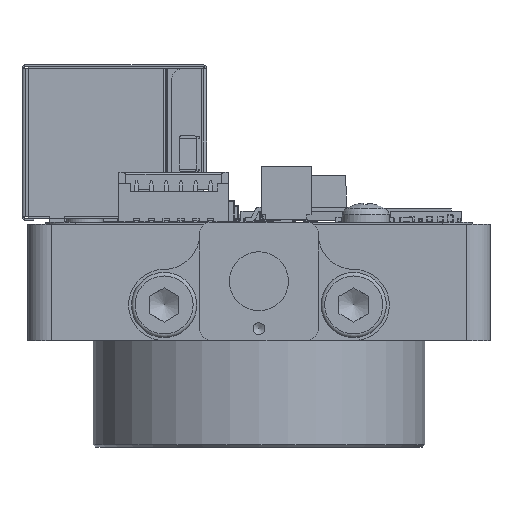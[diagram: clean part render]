
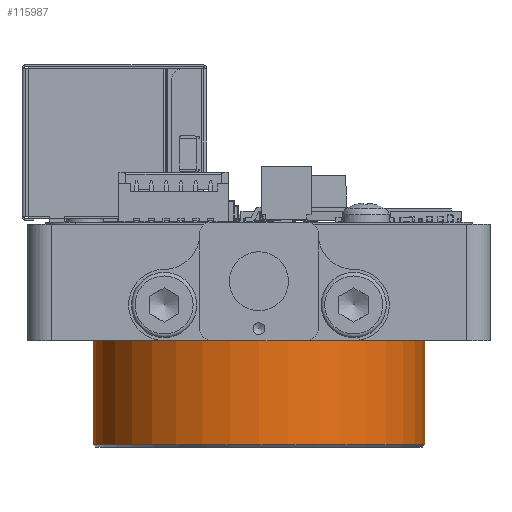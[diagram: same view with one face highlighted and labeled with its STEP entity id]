
A CAD part, front view. The second image highlights one B-rep face of the part: STEP entity #115987.
In plain terms, the highlighted cylindrical face has radius 14 mm (diameter 28 mm), a full revolution.
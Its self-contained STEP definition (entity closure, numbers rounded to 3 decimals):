
#1698=CYLINDRICAL_SURFACE('',#123748,14.);
#4794=CIRCLE('',#123741,14.);
#4798=CIRCLE('',#123749,14.);
#4799=CIRCLE('',#123750,14.);
#11717=FACE_OUTER_BOUND('',#18971,.T.);
#18971=EDGE_LOOP('',(#75971,#75972,#75973,#75974,#75975));
#27427=LINE('',#176672,#37739);
#37739=VECTOR('',#139586,14.);
#47647=VERTEX_POINT('',#176654);
#47651=VERTEX_POINT('',#176668);
#47652=VERTEX_POINT('',#176669);
#57672=EDGE_CURVE('',#47647,#47647,#4794,.T.);
#57678=EDGE_CURVE('',#47651,#47652,#4798,.T.);
#57679=EDGE_CURVE('',#47652,#47651,#4799,.T.);
#57680=EDGE_CURVE('',#47652,#47647,#27427,.T.);
#75971=ORIENTED_EDGE('',*,*,#57678,.F.);
#75972=ORIENTED_EDGE('',*,*,#57679,.F.);
#75973=ORIENTED_EDGE('',*,*,#57680,.T.);
#75974=ORIENTED_EDGE('',*,*,#57672,.F.);
#75975=ORIENTED_EDGE('',*,*,#57680,.F.);
#115987=ADVANCED_FACE('',(#11717),#1698,.T.);
#123741=AXIS2_PLACEMENT_3D('',#176655,#139564,#139565);
#123748=AXIS2_PLACEMENT_3D('',#176667,#139580,#139581);
#123749=AXIS2_PLACEMENT_3D('',#176670,#139582,#139583);
#123750=AXIS2_PLACEMENT_3D('',#176671,#139584,#139585);
#139564=DIRECTION('center_axis',(0.,0.,1.));
#139565=DIRECTION('ref_axis',(-1.,0.,0.));
#139580=DIRECTION('center_axis',(0.,0.,-1.));
#139581=DIRECTION('ref_axis',(-1.,0.,0.));
#139582=DIRECTION('center_axis',(0.,0.,-1.));
#139583=DIRECTION('ref_axis',(1.,0.,0.));
#139584=DIRECTION('center_axis',(0.,0.,-1.));
#139585=DIRECTION('ref_axis',(1.,0.,0.));
#139586=DIRECTION('',(0.,0.,1.));
#176654=CARTESIAN_POINT('',(14.,0.,0.));
#176655=CARTESIAN_POINT('Origin',(0.,0.,0.));
#176667=CARTESIAN_POINT('Origin',(0.,0.,0.));
#176668=CARTESIAN_POINT('',(-14.,0.,-8.8));
#176669=CARTESIAN_POINT('',(14.,0.,-8.8));
#176670=CARTESIAN_POINT('Origin',(0.,0.,-8.8));
#176671=CARTESIAN_POINT('Origin',(0.,0.,-8.8));
#176672=CARTESIAN_POINT('',(14.,0.,0.));
